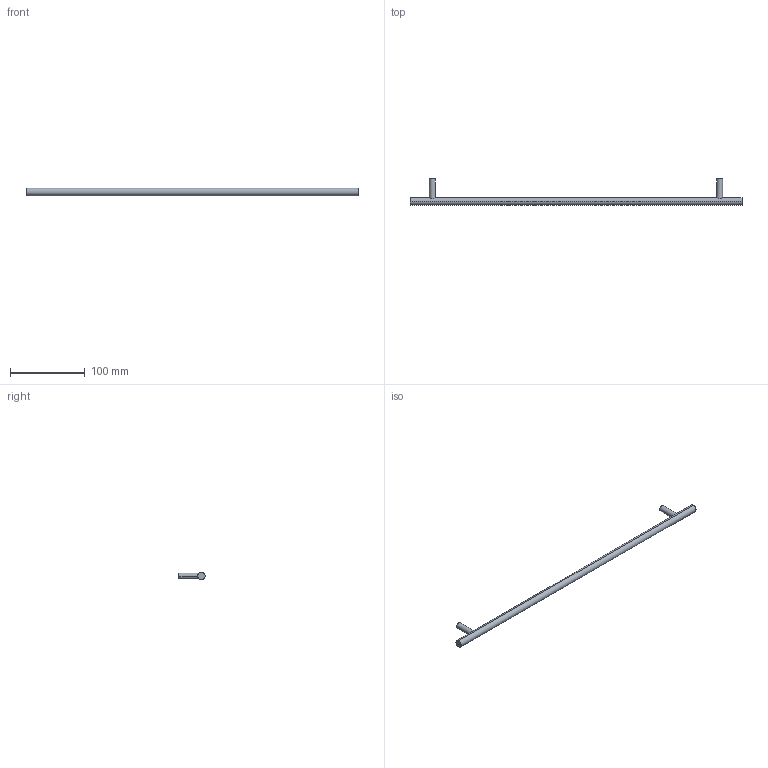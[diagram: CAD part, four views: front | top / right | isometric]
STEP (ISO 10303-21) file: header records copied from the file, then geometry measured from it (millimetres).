
FILE_DESCRIPTION( ( '' ), '1' );
FILE_NAME( 'D:/1.AUTOCAD EXPORT/Group 10/sheet_10_1/9070999.stp', '2013-10-21T10:19:44', ( '' ), ( '' ), ' ', ' ', ' ' );
FILE_SCHEMA( ( 'automotive_design' ) );
Length unit declared in the file: millimetre
Products named in the file (1): 1
Bounding box: 444 x 35 x 10 mm (x, y, z)
Volume: 37127.7 mm3; surface area: 15700 mm2
Topology: 1 solids, 1 shells, 16 faces, 32 edges, 22 vertices
Faces by surface type: cylinder 10, plane 6
Entity records: 972 total; most frequent: CARTESIAN_POINT 205, DIRECTION 76, STYLED_ITEM 71, PRESENTATION_STYLE_ASSIGNMENT 71, COLOUR_RGB 71, ORIENTED_EDGE 64, AXIS2_PLACEMENT_3D 33, EDGE_CURVE 32
